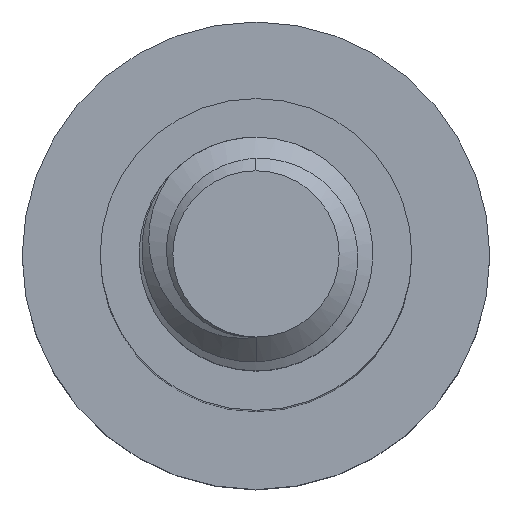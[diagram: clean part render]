
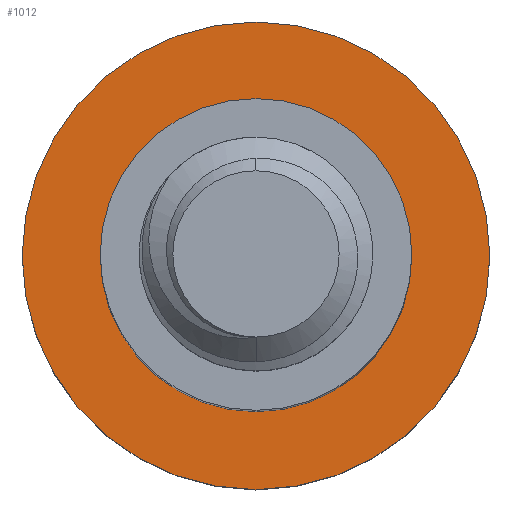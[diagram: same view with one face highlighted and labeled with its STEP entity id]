
A CAD part, top view. The second image highlights one B-rep face of the part: STEP entity #1012.
In plain terms, the highlighted planar face has unit normal (0, 0, 1).
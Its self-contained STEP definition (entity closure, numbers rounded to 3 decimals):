
#22 = DIRECTION ( 'NONE',  ( -1., 0., 0. ) ) ;
#121 = EDGE_CURVE ( 'NONE', #545, #898, #1647, .T. ) ;
#156 = AXIS2_PLACEMENT_3D ( 'NONE', #819, #828, #645 ) ;
#162 = VERTEX_POINT ( 'NONE', #433 ) ;
#188 = EDGE_LOOP ( 'NONE', ( #556, #1242 ) ) ;
#315 = EDGE_CURVE ( 'NONE', #854, #162, #2012, .T. ) ;
#347 = DIRECTION ( 'NONE',  ( 0., 0., -1. ) ) ;
#362 = CARTESIAN_POINT ( 'NONE',  ( 2., 0., -10. ) ) ;
#433 = CARTESIAN_POINT ( 'NONE',  ( -3., 0., -10. ) ) ;
#494 = CARTESIAN_POINT ( 'NONE',  ( 3., 0., -10. ) ) ;
#545 = VERTEX_POINT ( 'NONE', #546 ) ;
#546 = CARTESIAN_POINT ( 'NONE',  ( -2., 0., -10. ) ) ;
#554 = PLANE ( 'NONE',  #881 ) ;
#556 = ORIENTED_EDGE ( 'NONE', *, *, #315, .F. ) ;
#564 = CIRCLE ( 'NONE', #841, 2. ) ;
#645 = DIRECTION ( 'NONE',  ( -1., 0., 0. ) ) ;
#694 = DIRECTION ( 'NONE',  ( 0., 0., -1. ) ) ;
#727 = FACE_OUTER_BOUND ( 'NONE', #188, .T. ) ;
#773 = AXIS2_PLACEMENT_3D ( 'NONE', #1956, #694, #1080 ) ;
#788 = DIRECTION ( 'NONE',  ( -1., 0., 0. ) ) ;
#819 = CARTESIAN_POINT ( 'NONE',  ( 0., 0., -10. ) ) ;
#828 = DIRECTION ( 'NONE',  ( 0., 0., -1. ) ) ;
#841 = AXIS2_PLACEMENT_3D ( 'NONE', #2205, #1206, #1034 ) ;
#854 = VERTEX_POINT ( 'NONE', #494 ) ;
#881 = AXIS2_PLACEMENT_3D ( 'NONE', #1205, #347, #22 ) ;
#898 = VERTEX_POINT ( 'NONE', #362 ) ;
#948 = ORIENTED_EDGE ( 'NONE', *, *, #121, .T. ) ;
#1012 = ADVANCED_FACE ( 'NONE', ( #1428, #727 ), #554, .F. ) ;
#1034 = DIRECTION ( 'NONE',  ( -1., 0., 0. ) ) ;
#1073 = ORIENTED_EDGE ( 'NONE', *, *, #1856, .T. ) ;
#1080 = DIRECTION ( 'NONE',  ( -1., 0., 0. ) ) ;
#1188 = CARTESIAN_POINT ( 'NONE',  ( 0., 0., -10. ) ) ;
#1205 = CARTESIAN_POINT ( 'NONE',  ( 0., 0., -10. ) ) ;
#1206 = DIRECTION ( 'NONE',  ( 0., 0., -1. ) ) ;
#1242 = ORIENTED_EDGE ( 'NONE', *, *, #1915, .F. ) ;
#1359 = AXIS2_PLACEMENT_3D ( 'NONE', #1188, #1881, #788 ) ;
#1428 = FACE_BOUND ( 'NONE', #1633, .T. ) ;
#1633 = EDGE_LOOP ( 'NONE', ( #948, #1073 ) ) ;
#1647 = CIRCLE ( 'NONE', #1359, 2. ) ;
#1856 = EDGE_CURVE ( 'NONE', #898, #545, #564, .T. ) ;
#1881 = DIRECTION ( 'NONE',  ( 0., 0., -1. ) ) ;
#1900 = CIRCLE ( 'NONE', #773, 3. ) ;
#1915 = EDGE_CURVE ( 'NONE', #162, #854, #1900, .T. ) ;
#1956 = CARTESIAN_POINT ( 'NONE',  ( 0., 0., -10. ) ) ;
#2012 = CIRCLE ( 'NONE', #156, 3. ) ;
#2205 = CARTESIAN_POINT ( 'NONE',  ( 0., 0., -10. ) ) ;
